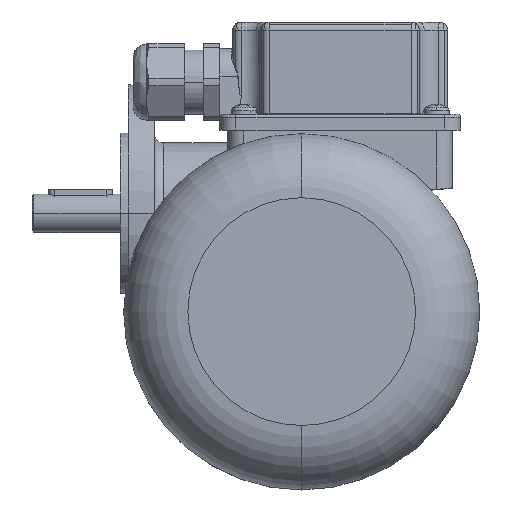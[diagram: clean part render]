
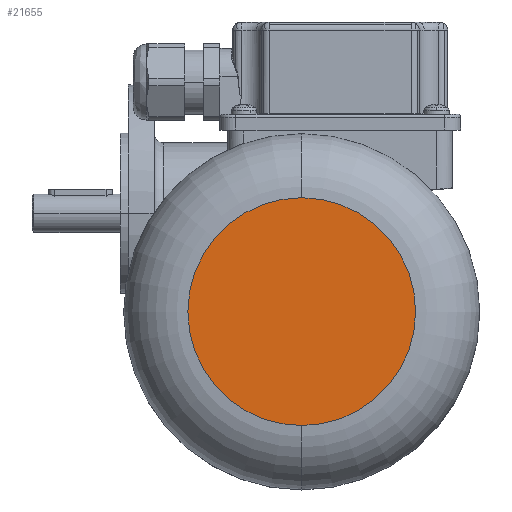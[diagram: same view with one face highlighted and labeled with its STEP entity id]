
A CAD part, top view. The second image highlights one B-rep face of the part: STEP entity #21655.
In plain terms, the highlighted planar face has unit normal (0, 0, 1) as drawn and (-1, 0, 0) by its records, which use the part's own axes.
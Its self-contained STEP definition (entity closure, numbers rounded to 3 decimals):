
#157 = CIRCLE ( 'NONE', #13900, 35.5 ) ;
#317 = CARTESIAN_POINT ( 'NONE',  ( 0., 0., 0. ) ) ;
#2871 = DIRECTION ( 'NONE',  ( -1., 0., 0. ) ) ;
#4416 = FACE_OUTER_BOUND ( 'NONE', #6146, .T. ) ;
#6146 = EDGE_LOOP ( 'NONE', ( #19260, #26769 ) ) ;
#7233 = CARTESIAN_POINT ( 'NONE',  ( 0., 0., -35.5 ) ) ;
#8213 = DIRECTION ( 'NONE',  ( 0., 0., -1. ) ) ;
#9563 = EDGE_CURVE ( 'NONE', #23042, #21017, #157, .T. ) ;
#10468 = CIRCLE ( 'NONE', #15410, 35.5 ) ;
#11230 = DIRECTION ( 'NONE',  ( 0., 0., -1. ) ) ;
#11456 = DIRECTION ( 'NONE',  ( -1., 0., 0. ) ) ;
#12084 = AXIS2_PLACEMENT_3D ( 'NONE', #23242, #27408, #8213 ) ;
#13900 = AXIS2_PLACEMENT_3D ( 'NONE', #21972, #2871, #11230 ) ;
#15410 = AXIS2_PLACEMENT_3D ( 'NONE', #317, #11456, #17866 ) ;
#17866 = DIRECTION ( 'NONE',  ( 0., 0., -1. ) ) ;
#18350 = EDGE_CURVE ( 'NONE', #21017, #23042, #10468, .T. ) ;
#19260 = ORIENTED_EDGE ( 'NONE', *, *, #9563, .T. ) ;
#21017 = VERTEX_POINT ( 'NONE', #25660 ) ;
#21655 = ADVANCED_FACE ( 'NONE', ( #4416 ), #25187, .F. ) ;
#21972 = CARTESIAN_POINT ( 'NONE',  ( 0., 0., 0. ) ) ;
#23042 = VERTEX_POINT ( 'NONE', #7233 ) ;
#23242 = CARTESIAN_POINT ( 'NONE',  ( 0., 0., 0. ) ) ;
#25187 = PLANE ( 'NONE',  #12084 ) ;
#25660 = CARTESIAN_POINT ( 'NONE',  ( 0., 0., 35.5 ) ) ;
#26769 = ORIENTED_EDGE ( 'NONE', *, *, #18350, .T. ) ;
#27408 = DIRECTION ( 'NONE',  ( 1., 0., 0. ) ) ;
